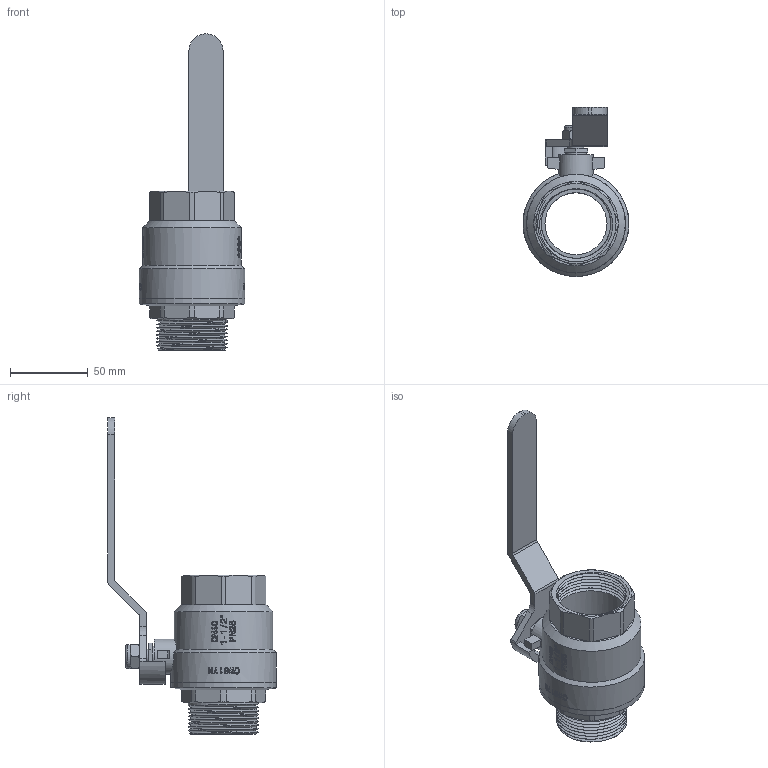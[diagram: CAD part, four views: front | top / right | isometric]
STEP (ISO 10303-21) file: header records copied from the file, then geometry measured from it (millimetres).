
FILE_DESCRIPTION(/* description */ (''),/* implementation_level */ '2;1');
FILE_NAME(/* name */ 'H:\Мишенин_3D\Исходные файлы 3D\VT.215.N.08.stp',/* time_stamp */ '2018-01-16T15:13:04+03:00',/* author */ ('MisheninAL'),/* organization */ (''),/* preprocessor_version */ 'ST-DEVELOPER v16.13',/* originating_system */ 'Autodesk Inventor 2018',/* authorisation */ '');
FILE_SCHEMA (('AUTOMOTIVE_DESIGN { 1 0 10303 214 3 1 1 }'));
Length unit declared in the file: millimetre
Products named in the file (1): VT.214_ВВ_1-1%2
Bounding box: 68.33 x 108.77 x 204 mm (x, y, z)
Volume: 152129.2 mm3; surface area: 53799.7 mm2
Topology: 1 solids, 1 shells, 536 faces, 1418 edges, 939 vertices
Faces by surface type: plane 249, bspline 172, cylinder 97, cone 16, torus 2
Full cylindrical faces by diameter (mm): 9.94 x1, 13.667 x1, 15.324 x1, 22.505 x1, 40 x1, 44.8 x6, 45.474 x8, 63.634 x1, 67.952 x1, 68.134 x1
Entity records: 23620 total; most frequent: CARTESIAN_POINT 11728, ORIENTED_EDGE 2698, DIRECTION 2023, EDGE_CURVE 1349, VERTEX_POINT 901, AXIS2_PLACEMENT_3D 684, LINE 655, VECTOR 655
